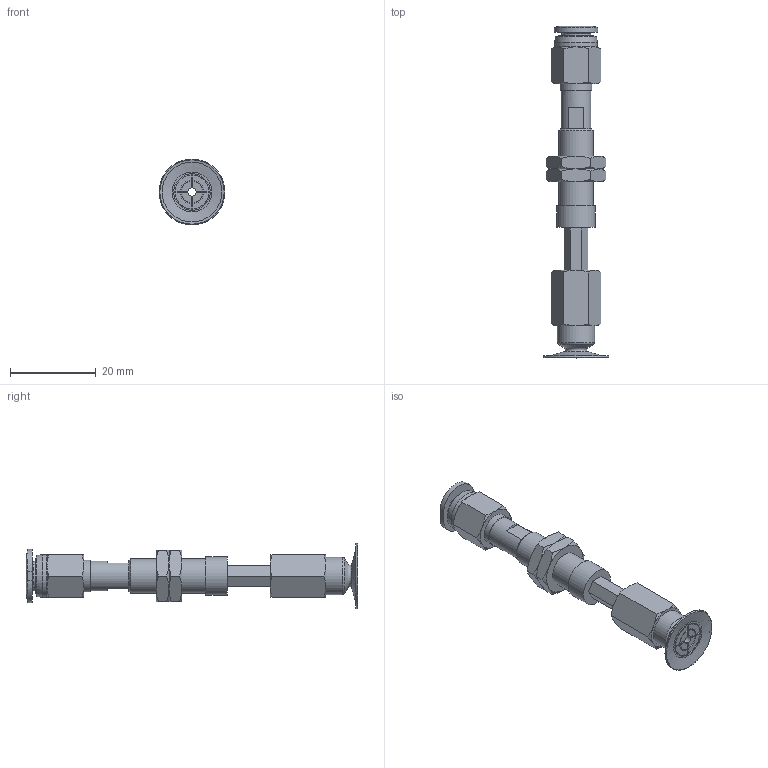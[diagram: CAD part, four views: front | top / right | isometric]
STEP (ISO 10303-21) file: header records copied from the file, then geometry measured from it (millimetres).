
FILE_DESCRIPTION(('STEP AP203'),'1');
FILE_NAME('-O.stp','2025-08-21T08:02:59',(' '),(' '),'Spatial InterOp 3D',' ',' ');
FILE_SCHEMA(('CONFIG_CONTROL_DESIGN'));
Length unit declared in the file: millimetre
Products named in the file (7): BNABPATH-15B-10-※-O; ADAPTER; NAPATH-10A-10--M; NAPATH-10A-10--F; Nut-10A-S; PC-C_06-M5; BPAG-15B-※
Assembly tree (7 placements, depth 2):
  BNABPATH-15B-10-※-O
    ADAPTER
    NAPATH-10A-10--M
    NAPATH-10A-10--F
    Nut-10A-S  x2
    PC-C_06-M5
    BPAG-15B-※
Bounding box: 15.4 x 77.48 x 15.4 mm (x, y, z)
Volume: 4329.7 mm3; surface area: 5458 mm2
Topology: 7 solids, 7 shells, 216 faces, 475 edges, 289 vertices
Faces by surface type: plane 90, cone 71, cylinder 36, torus 12, bspline 4, revolution 3
Full cylindrical faces by diameter (mm): 2 x3, 4 x4, 4.134 x1, 5 x1, 6 x2, 7 x2, 7.188 x2, 7.4 x1, 8 x1, 8.2 x1, 8.5 x1, 8.7 x1, 9 x1, 10 x1
Entity records: 5764 total; most frequent: CARTESIAN_POINT 1543, DIRECTION 795, ORIENTED_EDGE 732, EDGE_CURVE 366, AXIS2_PLACEMENT_3D 330, EDGE_LOOP 266, VERTEX_POINT 248, FACE_OUTER_BOUND 226
